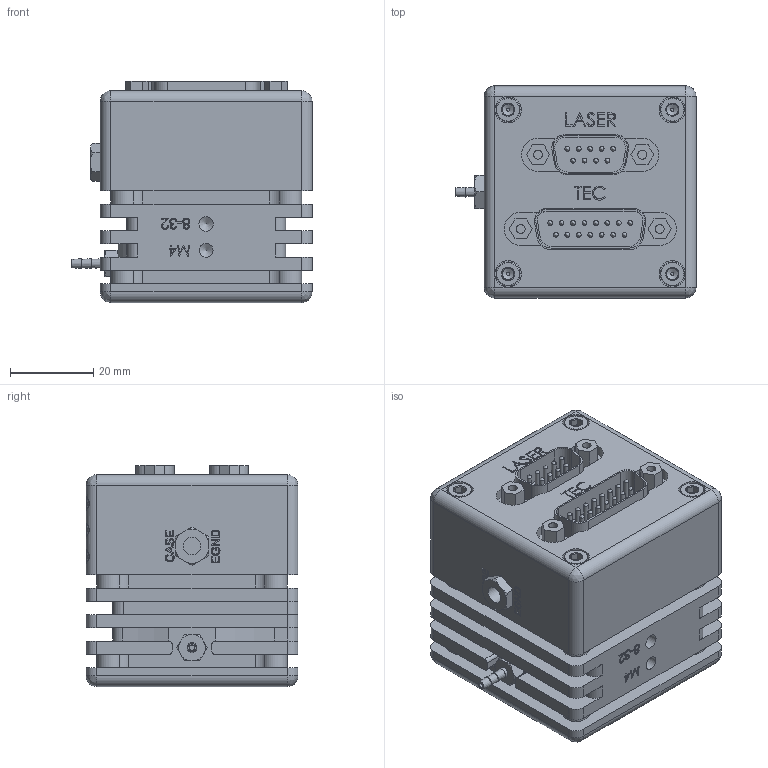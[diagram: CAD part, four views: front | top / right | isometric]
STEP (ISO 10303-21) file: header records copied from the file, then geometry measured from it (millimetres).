
FILE_DESCRIPTION (( 'STEP AP214' ), '1' );
FILE_NAME ('Step 4 - 224 TO-Can LaserMount.STEP', '2015-05-20T17:10:31', ( '' ), ( '' ), 'SwSTEP 2.0', 'SolidWorks 2014', '' );
FILE_SCHEMA (( 'AUTOMOTIVE_DESIGN' ));
Length unit declared in the file: millimetre
Products named in the file (1): Step 4 - 224 TO-Can LaserMount
Bounding box: 57.61 x 50.8 x 53.02 mm (x, y, z)
Volume: 111555.2 mm3; surface area: 33436.7 mm2
Topology: 4 solids, 6 shells, 2130 faces, 5640 edges, 3740 vertices
Faces by surface type: plane 1164, bspline 482, cylinder 311, cone 173
Full cylindrical faces by diameter (mm): 0.61 x4, 1.143 x24, 1.321 x1, 1.778 x6, 2.134 x4, 2.184 x4, 2.261 x12, 2.362 x2, 2.388 x1, 2.54 x3, 2.705 x4, 3.048 x3, 3.3 x1, 3.454 x1, 3.505 x4, 3.658 x4, 4.216 x1, 4.699 x1, 4.75 x3, 5.715 x1, 5.74 x8, 6.35 x8, 6.858 x1, 7.493 x1, 9.144 x1
Entity records: 112659 total; most frequent: CARTESIAN_POINT 47185, ORIENTED_EDGE 10724, DIRECTION 8103, EDGE_CURVE 5362, VERTEX_POINT 3646, LINE 3061, VECTOR 3061, EDGE_LOOP 2558
